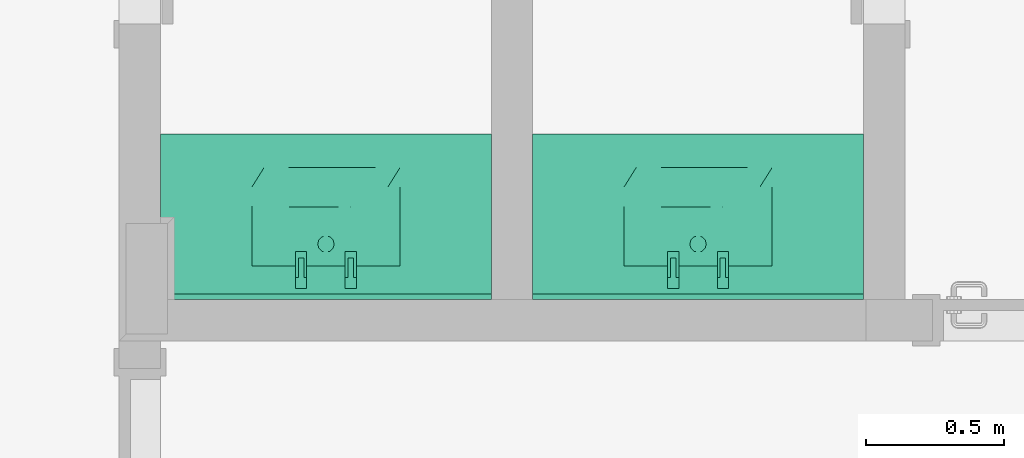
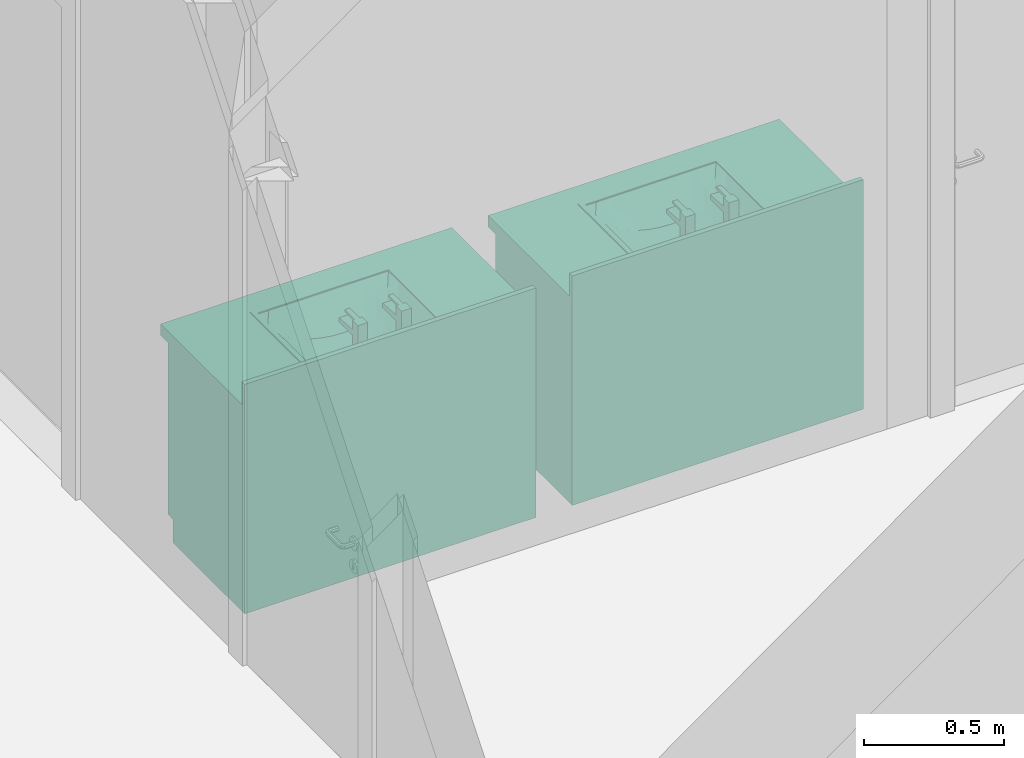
# One storey, part 18 of 24: 2 distribution elements.
"""IFC2X3 building model written with IfcOpenShell, lengths in millimetres."""

from ifc_helpers import new_model, entity, si_unit, converted_unit, money_unit, direction, frame, origin_with_axes, place, context, subcontext, project, spatial, open_shell, faceted_brep, surface_model, source, transform, mapped, material, type_object, element, save


model = new_model("IFC2X3")

# Units and contexts
model_context = context("Model", 3, precision=1e-05, world=origin_with_axes(), true_north=direction((0.0, 1.0)))
body_context = subcontext(model_context, "Body", "Model", "MODEL_VIEW")
ifc_project = project(units=[si_unit("LENGTHUNIT", "METRE", prefix="MILLI"), si_unit("AREAUNIT", "SQUARE_METRE"), si_unit("VOLUMEUNIT", "CUBIC_METRE"), converted_unit("PLANEANGLEUNIT", "DEGREE", entity("IfcPlaneAngleMeasure", 0.0174532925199), si_unit("PLANEANGLEUNIT", "RADIAN"), dimensions=[0, 0, 0, 0, 0, 0, 0]), si_unit("SOLIDANGLEUNIT", "STERADIAN"), money_unit("USD"), converted_unit("TIMEUNIT", "Year", entity("IfcTimeMeasure", 31556926.0), si_unit("TIMEUNIT", "SECOND"), dimensions=[0, 0, 0, 0, 0, 0, 0]), si_unit("MASSUNIT", "GRAM"), si_unit("THERMODYNAMICTEMPERATUREUNIT", "DEGREE_CELSIUS"), si_unit("LUMINOUSINTENSITYUNIT", "LUMEN")], contexts=[model_context])

# Site, building, storey
site_placement = place(None, origin_with_axes())
site = spatial("IfcSite", under=ifc_project, at=site_placement, Name="Grove Residential", CompositionType="ELEMENT")
building_placement = place(site_placement, origin_with_axes())
building = spatial("IfcBuilding", under=site, at=building_placement, Name="Building", CompositionType="ELEMENT")
storey_placement = place(building_placement, frame((0.0, 0.0, 3740.0), z_axis=(0.0, 0.0, 1.0), x_axis=(1.0, 0.0, 0.0)))
storey = spatial("IfcBuildingStorey", under=building, at=storey_placement, Name="First Floor", CompositionType="ELEMENT", Elevation=3740.0)

# Distribution elements
ifc_material = material(Name="Background")
distribution_element_type = type_object("IfcDistributionElementType", Name="Basin Cabinet 21")
shared_shape = source(origin_with_axes(), body_context, "Body", "SurfaceModel", [
    faceted_brep([(0.0, 90.0, 0.0), (1200.0, 90.0, 0.0), (1200.0, 90.0, 100.0), (0.0, 90.0, 100.0), (0.0, 600.0, 0.0), (1200.0, 600.0, 0.0), (1200.0, 600.0, 100.0), (0.0, 600.0, 100.0)], [[[0, 1, 2, 3]], [[0, 4, 5, 1]], [[1, 5, 6, 2]], [[3, 2, 6, 7]], [[4, 0, 3, 7]], [[5, 4, 7, 6]]]),
    faceted_brep([(0.0, 70.0, 100.0), (20.0, 70.0, 100.0), (20.0, 70.0, 120.0), (0.0, 70.0, 120.0), (0.0, 600.0, 100.0), (20.0, 600.0, 100.0), (1180.0, 600.0, 100.0), (1200.0, 600.0, 100.0), (1200.0, 70.0, 100.0), (1180.0, 70.0, 100.0), (1180.0, 70.0, 120.0), (1200.0, 70.0, 120.0), (1200.0, 600.0, 120.0), (1180.0, 600.0, 120.0), (20.0, 600.0, 120.0), (0.0, 600.0, 120.0)], [[[0, 1, 2, 3]], [[0, 4, 5, 6, 7, 8, 9, 1]], [[1, 9, 10, 2]], [[3, 2, 10, 11, 12, 13, 14, 15]], [[4, 0, 3, 15]], [[5, 4, 15, 14]], [[6, 5, 14, 13]], [[7, 6, 13, 12]], [[8, 7, 12, 11]], [[9, 8, 11, 10]]]),
    faceted_brep([(0.0, 70.0, 120.0), (20.0, 70.0, 120.0), (20.0, 70.0, 850.0), (0.0, 70.0, 850.0), (0.0, 600.0, 120.0), (1200.0, 600.0, 120.0), (1200.0, 70.0, 120.0), (1180.0, 70.0, 120.0), (1180.0, 580.0, 120.0), (20.0, 580.0, 120.0), (20.0, 580.0, 850.0), (1180.0, 580.0, 850.0), (1180.0, 70.0, 850.0), (1200.0, 70.0, 850.0), (1200.0, 600.0, 850.0), (0.0, 600.0, 850.0)], [[[0, 1, 2, 3]], [[0, 4, 5, 6, 7, 8, 9, 1]], [[1, 9, 10, 2]], [[3, 2, 10, 11, 12, 13, 14, 15]], [[4, 0, 3, 15]], [[5, 4, 15, 14]], [[6, 5, 14, 13]], [[7, 6, 13, 12]], [[8, 7, 12, 11]], [[9, 8, 11, 10]]]),
    faceted_brep([(1180.0, 70.0, 323.333333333), (1180.0, 580.0, 323.333333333), (1180.0, 580.0, 343.333333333), (1180.0, 70.0, 343.333333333), (20.0, 70.0, 323.333333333), (20.0, 580.0, 323.333333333), (20.0, 580.0, 343.333333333), (20.0, 70.0, 343.333333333)], [[[0, 1, 2, 3]], [[0, 4, 5, 1]], [[1, 5, 6, 2]], [[3, 2, 6, 7]], [[4, 0, 3, 7]], [[5, 4, 7, 6]]]),
    faceted_brep([(1180.0, 70.0, 566.666666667), (1180.0, 580.0, 566.666666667), (1180.0, 580.0, 586.666666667), (1180.0, 70.0, 586.666666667), (20.0, 70.0, 566.666666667), (20.0, 580.0, 566.666666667), (20.0, 580.0, 586.666666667), (20.0, 70.0, 586.666666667)], [[[0, 1, 2, 3]], [[0, 4, 5, 1]], [[1, 5, 6, 2]], [[3, 2, 6, 7]], [[4, 0, 3, 7]], [[5, 4, 7, 6]]]),
    faceted_brep([(1200.0, 600.0, 850.0), (1200.0, 0.0, 850.0), (0.0, 0.0, 850.0), (0.0, 600.0, 850.0), (330.0, 120.0, 850.0), (870.0, 120.0, 850.0), (870.0, 480.0, 850.0), (330.0, 480.0, 850.0), (1200.0, 600.0, 900.0), (1200.0, 0.0, 900.0), (0.0, 0.0, 900.0), (0.0, 600.0, 900.0), (330.0, 120.0, 900.0), (870.0, 120.0, 900.0), (870.0, 480.0, 900.0), (330.0, 480.0, 900.0)], [[[0, 1, 2, 3], [4, 5, 6, 7]], [[8, 9, 1, 0]], [[9, 10, 2, 1]], [[10, 11, 3, 2]], [[11, 8, 0, 3]], [[12, 13, 5, 4]], [[13, 14, 6, 5]], [[14, 15, 7, 6]], [[15, 12, 4, 7]], [[8, 11, 10, 9], [12, 15, 14, 13]]]),
    faceted_brep([(0.0, 580.0, 900.0), (1200.0, 580.0, 900.0), (1200.0, 580.0, 1000.0), (0.0, 580.0, 1000.0), (0.0, 600.0, 900.0), (1200.0, 600.0, 900.0), (1200.0, 600.0, 1000.0), (0.0, 600.0, 1000.0)], [[[0, 1, 2, 3]], [[0, 4, 5, 1]], [[1, 5, 6, 2]], [[3, 2, 6, 7]], [[4, 0, 3, 7]], [[5, 4, 7, 6]]]),
    faceted_brep([(311.0, 101.0, 900.0), (889.0, 101.0, 900.0), (889.0, 101.0, 905.0), (311.0, 101.0, 905.0), (311.0, 499.0, 900.0), (889.0, 499.0, 900.0), (331.0, 121.0, 900.0), (869.0, 121.0, 900.0), (869.0, 479.0, 900.0), (331.0, 479.0, 900.0), (889.0, 499.0, 905.0), (311.0, 499.0, 905.0), (331.0, 121.0, 905.0), (331.0, 479.0, 905.0), (869.0, 479.0, 905.0), (869.0, 121.0, 905.0)], [[[0, 1, 2, 3]], [[0, 4, 5, 1], [6, 7, 8, 9]], [[1, 5, 10, 2]], [[3, 2, 10, 11], [12, 13, 14, 15]], [[4, 0, 3, 11]], [[5, 4, 11, 10]], [[7, 6, 12, 15]], [[8, 7, 15, 14]], [[9, 8, 14, 13]], [[6, 9, 13, 12]]]),
    surface_model("IfcShellBasedSurfaceModel", [(572.298862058, 407.4, 801.512410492), (574.019237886, 413.82053, 801.418482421), (585.0, 424.801292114, 800.818961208), (600.0, 428.82053, 800.0), (600.0, 479.0, 800.0), (555.166666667, 479.0, 802.447784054), (555.166666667, 407.4, 802.447784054), (615.0, 424.801292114, 800.818961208), (625.980762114, 413.82053, 801.418482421), (627.701137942, 407.4, 801.512410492), (644.833333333, 407.4, 802.447784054), (644.833333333, 479.0, 802.447784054), (779.333333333, 479.0, 841.099033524), (824.166666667, 479.0, 866.359398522), (869.0, 479.0, 900.0), (331.0, 479.0, 900.0), (375.833333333, 479.0, 866.359398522), (420.666666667, 479.0, 841.099033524), (465.5, 479.0, 822.583844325), (510.333333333, 479.0, 809.880570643), (689.666666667, 479.0, 809.880570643), (734.5, 479.0, 822.583844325), (510.333333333, 407.4, 809.880570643), (600.0, 368.82053, 800.0), (585.0, 372.839767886, 800.818961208), (574.019237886, 383.82053, 801.418482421), (570.0, 398.82053, 801.637922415), (555.166666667, 335.8, 802.447784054), (600.0, 335.8, 800.0), (630.0, 398.82053, 801.637922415), (625.980762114, 383.82053, 801.418482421), (615.0, 372.839767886, 800.818961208), (644.833333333, 335.8, 802.447784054), (689.666666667, 407.4, 809.880570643), (779.333333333, 407.4, 841.099033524), (824.166666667, 407.4, 866.359398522), (869.0, 407.4, 900.0), (331.0, 407.4, 900.0), (375.833333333, 407.4, 866.359398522), (420.666666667, 407.4, 841.099033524), (465.5, 407.4, 822.583844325), (734.5, 407.4, 822.583844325), (510.333333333, 335.8, 809.880570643), (555.166666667, 264.2, 813.703778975), (600.0, 264.2, 811.479674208), (689.666666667, 335.8, 809.880570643), (779.333333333, 335.8, 841.099033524), (824.166666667, 335.8, 866.359398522), (869.0, 335.8, 900.0), (869.0, 264.2, 900.0), (869.0, 192.6, 900.0), (869.0, 121.0, 900.0), (331.0, 335.8, 900.0), (331.0, 121.0, 900.0), (331.0, 192.6, 900.0), (331.0, 264.2, 900.0), (375.833333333, 335.8, 866.359398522), (420.666666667, 335.8, 841.099033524), (465.5, 335.8, 822.583844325), (734.5, 335.8, 822.583844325), (510.333333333, 264.2, 820.44293141), (644.833333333, 264.2, 813.703778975), (779.333333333, 264.2, 848.489912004), (824.166666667, 264.2, 870.834422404), (824.166666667, 192.6, 885.925600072), (824.166666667, 121.0, 900.0), (375.833333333, 192.6, 885.925600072), (375.833333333, 264.2, 870.834422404), (420.666666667, 264.2, 848.489912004), (465.5, 264.2, 831.908110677), (689.666666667, 264.2, 820.44293141), (734.5, 264.2, 831.908110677), (510.333333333, 192.6, 859.727879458), (555.166666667, 192.6, 856.053471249), (600.0, 192.6, 854.83231135), (420.666666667, 121.0, 900.0), (375.833333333, 121.0, 900.0), (779.333333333, 121.0, 900.0), (734.5, 121.0, 900.0), (689.666666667, 121.0, 900.0), (644.833333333, 121.0, 900.0), (600.0, 121.0, 900.0), (555.166666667, 121.0, 900.0), (510.333333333, 121.0, 900.0), (465.5, 121.0, 900.0), (465.5, 192.6, 865.888816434), (644.833333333, 192.6, 856.053471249), (734.5, 192.6, 865.888816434), (779.333333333, 192.6, 874.593452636), (420.666666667, 192.6, 874.593452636), (689.666666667, 192.6, 859.727879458)], [open_shell([[[0, 1, 2, 3, 4, 5, 6]], [[4, 3, 7, 8, 9, 10, 11]], [[12, 13, 14, 15, 16, 17, 18, 19, 5, 4, 11, 20, 21]], [[5, 19, 22, 6]], [[23, 24, 25, 26, 0, 6, 27, 28]], [[9, 29, 30, 31, 23, 28, 32, 10]], [[20, 11, 10, 33]], [[13, 12, 34, 35]], [[14, 13, 35, 36]], [[16, 15, 37, 38]], [[17, 16, 38, 39]], [[18, 17, 39, 40]], [[19, 18, 40, 22]], [[21, 20, 33, 41]], [[12, 21, 41, 34]], [[6, 22, 42, 27]], [[28, 27, 43]], [[32, 28, 44]], [[33, 10, 32, 45]], [[35, 34, 46, 47]], [[36, 35, 47, 48]], [[49, 50, 51, 14, 36, 48]], [[52, 37, 15, 53, 54, 55]], [[38, 37, 52, 56]], [[39, 38, 56, 57]], [[40, 39, 57, 58]], [[22, 40, 58, 42]], [[41, 33, 45, 59]], [[34, 41, 59, 46]], [[27, 42, 60]], [[43, 27, 60]], [[44, 28, 43]], [[61, 32, 44]], [[45, 32, 61]], [[47, 46, 62]], [[48, 47, 63]], [[50, 49, 64]], [[51, 50, 65]], [[49, 48, 63]], [[66, 54, 53]], [[67, 55, 54]], [[56, 52, 55]], [[57, 56, 67]], [[58, 57, 68]], [[42, 58, 69]], [[59, 45, 70]], [[46, 59, 71]], [[60, 42, 69]], [[43, 60, 72]], [[44, 43, 73]], [[61, 44, 74]], [[70, 45, 61]], [[62, 46, 71]], [[63, 47, 62]], [[49, 63, 64]], [[50, 64, 65]], [[75, 76, 53, 51, 65, 77, 78, 79, 80, 81, 82, 83, 84]], [[66, 67, 54]], [[76, 66, 53]], [[67, 56, 55]], [[68, 57, 67]], [[69, 58, 68]], [[71, 59, 70]], [[60, 69, 85]], [[72, 60, 85]], [[73, 43, 72]], [[74, 44, 73]], [[86, 61, 74]], [[70, 61, 86]], [[62, 71, 87]], [[63, 62, 88]], [[64, 63, 88]], [[65, 64, 77]], [[75, 89, 76]], [[77, 88, 78]], [[78, 87, 79]], [[79, 90, 80]], [[80, 86, 81]], [[81, 74, 82]], [[82, 73, 83]], [[83, 72, 84]], [[84, 85, 75]], [[68, 67, 66]], [[89, 66, 76]], [[69, 68, 89]], [[71, 70, 90]], [[85, 69, 89]], [[72, 85, 84]], [[73, 72, 83]], [[74, 73, 82]], [[86, 74, 81]], [[90, 70, 86]], [[87, 71, 90]], [[88, 62, 87]], [[64, 88, 77]], [[85, 89, 75]], [[88, 87, 78]], [[87, 90, 79]], [[90, 86, 80]], [[89, 68, 66]]])]),
    surface_model("IfcShellBasedSurfaceModel", [(625.980762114, 413.82053, 801.418482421), (630.0, 398.82053, 801.637922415), (630.0, 398.82053, 795.0), (625.980762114, 413.82053, 795.0), (625.980762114, 383.82053, 801.418482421), (625.980762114, 383.82053, 795.0), (615.0, 424.801292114, 795.0), (615.0, 372.839767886, 795.0), (600.0, 368.82053, 795.0), (585.0, 372.839767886, 795.0), (574.019237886, 383.82053, 795.0), (570.0, 398.82053, 795.0), (574.019237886, 413.82053, 795.0), (585.0, 424.801292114, 795.0), (600.0, 428.82053, 795.0), (615.0, 424.801292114, 800.818961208), (615.0, 372.839767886, 800.818961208), (600.0, 368.82053, 800.0), (585.0, 372.839767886, 800.818961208), (574.019237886, 383.82053, 801.418482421), (570.0, 398.82053, 801.637922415), (574.019237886, 413.82053, 801.418482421), (585.0, 424.801292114, 800.818961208), (600.0, 428.82053, 800.0)], [open_shell([[[0, 1, 2, 3]], [[1, 4, 5, 2]], [[6, 3, 2, 5, 7, 8, 9, 10, 11, 12, 13, 14]], [[15, 0, 3, 6]], [[4, 16, 7, 5]], [[16, 17, 8, 7]], [[17, 18, 9, 8]], [[18, 19, 10, 9]], [[19, 20, 11, 10]], [[20, 21, 12, 11]], [[21, 22, 13, 12]], [[22, 23, 14, 13]], [[23, 15, 6, 14]]])]),
    faceted_brep([(710.0, 560.0, 900.0), (710.0, 520.0, 900.0), (670.0, 520.0, 900.0), (670.0, 560.0, 900.0), (710.0, 560.0, 1020.0), (710.0, 520.0, 1020.0), (710.0, 425.0, 1013.35695287), (710.0, 425.0, 995.0), (710.0, 520.0, 995.0), (670.0, 520.0, 995.0), (670.0, 425.0, 995.0), (670.0, 425.0, 1013.35695287), (670.0, 520.0, 1020.0), (670.0, 560.0, 1020.0)], [[[0, 1, 2, 3]], [[0, 4, 5, 6, 7, 8, 1]], [[1, 8, 9, 2]], [[3, 2, 9, 10, 11, 12, 13]], [[4, 0, 3, 13]], [[5, 4, 13, 12]], [[6, 5, 12, 11]], [[7, 6, 11, 10]], [[8, 7, 10, 9]]]),
    faceted_brep([(710.0, 560.0, 1020.0), (710.0, 520.0, 1020.0), (670.0, 520.0, 1020.0), (670.0, 560.0, 1020.0), (710.0, 560.0, 1060.0), (710.0, 520.0, 1060.0), (670.0, 520.0, 1060.0), (670.0, 560.0, 1060.0)], [[[0, 1, 2, 3]], [[0, 4, 5, 1]], [[1, 5, 6, 2]], [[3, 2, 6, 7]], [[4, 0, 3, 7]], [[5, 4, 7, 6]]]),
    faceted_brep([(700.0, 520.0, 1050.0), (700.0, 450.0, 1050.0), (680.0, 450.0, 1050.0), (680.0, 520.0, 1050.0), (700.0, 520.0, 1060.0), (700.0, 450.0, 1060.0), (680.0, 450.0, 1060.0), (680.0, 520.0, 1060.0)], [[[0, 1, 2, 3]], [[0, 4, 5, 1]], [[1, 5, 6, 2]], [[3, 2, 6, 7]], [[4, 0, 3, 7]], [[5, 4, 7, 6]]]),
    faceted_brep([(490.0, 560.0, 900.0), (530.0, 560.0, 900.0), (530.0, 520.0, 900.0), (490.0, 520.0, 900.0), (490.0, 560.0, 1020.0), (530.0, 560.0, 1020.0), (530.0, 520.0, 1020.0), (530.0, 425.0, 1013.35695287), (530.0, 425.0, 995.0), (530.0, 520.0, 995.0), (490.0, 520.0, 995.0), (490.0, 425.0, 995.0), (490.0, 425.0, 1013.35695287), (490.0, 520.0, 1020.0)], [[[0, 1, 2, 3]], [[4, 5, 1, 0]], [[1, 5, 6, 7, 8, 9, 2]], [[3, 2, 9, 10]], [[0, 3, 10, 11, 12, 13, 4]], [[13, 6, 5, 4]], [[12, 7, 6, 13]], [[11, 8, 7, 12]], [[10, 9, 8, 11]]]),
    faceted_brep([(490.0, 560.0, 1020.0), (530.0, 560.0, 1020.0), (530.0, 520.0, 1020.0), (490.0, 520.0, 1020.0), (490.0, 560.0, 1060.0), (530.0, 560.0, 1060.0), (530.0, 520.0, 1060.0), (490.0, 520.0, 1060.0)], [[[0, 1, 2, 3]], [[4, 5, 1, 0]], [[1, 5, 6, 2]], [[3, 2, 6, 7]], [[0, 3, 7, 4]], [[7, 6, 5, 4]]]),
    faceted_brep([(500.0, 520.0, 1050.0), (520.0, 520.0, 1050.0), (520.0, 450.0, 1050.0), (500.0, 450.0, 1050.0), (500.0, 520.0, 1060.0), (520.0, 520.0, 1060.0), (520.0, 450.0, 1060.0), (500.0, 450.0, 1060.0)], [[[0, 1, 2, 3]], [[4, 5, 1, 0]], [[1, 5, 6, 2]], [[3, 2, 6, 7]], [[0, 3, 7, 4]], [[7, 6, 5, 4]]]),
    faceted_brep([(1.5, 70.0, 101.5), (448.5, 70.0, 101.5), (448.5, 50.0, 101.5), (1.5, 50.0, 101.5), (1.5, 70.0, 848.5), (448.5, 70.0, 848.5), (448.5, 50.0, 848.5), (1.5, 50.0, 848.5)], [[[0, 1, 2, 3]], [[0, 4, 5, 1]], [[1, 5, 6, 2]], [[3, 2, 6, 7]], [[4, 0, 3, 7]], [[5, 4, 7, 6]]]),
    faceted_brep([(408.892304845, 50.0, 785.5), (404.5, 50.0, 781.107695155), (398.5, 50.0, 779.5), (392.5, 50.0, 781.107695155), (388.107695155, 50.0, 785.5), (386.5, 50.0, 791.5), (388.107695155, 50.0, 797.5), (392.5, 50.0, 801.892304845), (398.5, 50.0, 803.5), (404.5, 50.0, 801.892304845), (408.892304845, 50.0, 797.5), (410.5, 50.0, 791.5), (408.892304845, 25.0, 785.5), (404.5, 25.0, 781.107695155), (398.5, 25.0, 779.5), (392.5, 25.0, 781.107695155), (388.107695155, 25.0, 785.5), (386.5, 25.0, 791.5), (388.107695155, 25.0, 797.5), (392.5, 25.0, 801.892304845), (398.5, 25.0, 803.5), (404.5, 25.0, 801.892304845), (408.892304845, 25.0, 797.5), (410.5, 25.0, 791.5)], [[[0, 1, 2, 3, 4, 5, 6, 7, 8, 9, 10, 11]], [[1, 0, 12, 13]], [[2, 1, 13, 14]], [[3, 2, 14, 15]], [[4, 3, 15, 16]], [[5, 4, 16, 17]], [[6, 5, 17, 18]], [[7, 6, 18, 19]], [[8, 7, 19, 20]], [[9, 8, 20, 21]], [[10, 9, 21, 22]], [[11, 10, 22, 23]], [[0, 11, 23, 12]], [[12, 23, 22, 21, 20, 19, 18, 17, 16, 15, 14, 13]]]),
    faceted_brep([(1198.5, 70.0, 101.5), (1198.5, 50.0, 101.5), (451.5, 50.0, 101.5), (451.5, 70.0, 101.5), (1198.5, 70.0, 848.5), (1198.5, 50.0, 848.5), (451.5, 50.0, 848.5), (451.5, 70.0, 848.5)], [[[0, 1, 2, 3]], [[4, 5, 1, 0]], [[1, 5, 6, 2]], [[3, 2, 6, 7]], [[0, 3, 7, 4]], [[7, 6, 5, 4]]]),
    faceted_brep([(491.107695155, 50.0, 785.5), (489.5, 50.0, 791.5), (491.107695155, 50.0, 797.5), (495.5, 50.0, 801.892304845), (501.5, 50.0, 803.5), (507.5, 50.0, 801.892304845), (511.892304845, 50.0, 797.5), (513.5, 50.0, 791.5), (511.892304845, 50.0, 785.5), (507.5, 50.0, 781.107695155), (501.5, 50.0, 779.5), (495.5, 50.0, 781.107695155), (491.107695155, 25.0, 785.5), (489.5, 25.0, 791.5), (491.107695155, 25.0, 797.5), (495.5, 25.0, 801.892304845), (501.5, 25.0, 803.5), (507.5, 25.0, 801.892304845), (511.892304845, 25.0, 797.5), (513.5, 25.0, 791.5), (511.892304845, 25.0, 785.5), (507.5, 25.0, 781.107695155), (501.5, 25.0, 779.5), (495.5, 25.0, 781.107695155)], [[[0, 1, 2, 3, 4, 5, 6, 7, 8, 9, 10, 11]], [[0, 12, 13, 1]], [[1, 13, 14, 2]], [[2, 14, 15, 3]], [[3, 15, 16, 4]], [[4, 16, 17, 5]], [[5, 17, 18, 6]], [[6, 18, 19, 7]], [[7, 19, 20, 8]], [[8, 20, 21, 9]], [[9, 21, 22, 10]], [[10, 22, 23, 11]], [[11, 23, 12, 0]], [[12, 23, 22, 21, 20, 19, 18, 17, 16, 15, 14, 13]]]),
])
for number, where, z_axis, x_axis, name in (
    (1, (-3560.0, 4274.99996722, 0.0), (0.0, 0.0, 1.0), (-1.0, 0.0, 0.0), "FU - 002"),
    (2, (-2210.0, 4274.99996722, 0.0), (0.0, 0.0, 1.0), (-1.0, 0.0, 0.0), "FU - 002"),
):
    element("IfcDistributionElement", number, at=place(storey_placement, frame(where, z_axis=z_axis, x_axis=x_axis)), inside=storey, type_object=distribution_element_type, material=ifc_material, Name=name, context=body_context, shape_type="MappedRepresentation", body=[
        mapped(shared_shape, transform((0.0, 0.0, 0.0))),
    ])

save(model, "model.ifc")
